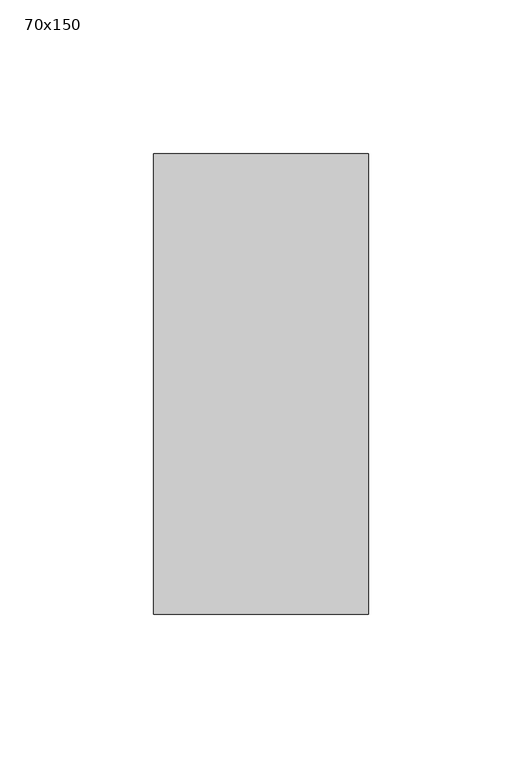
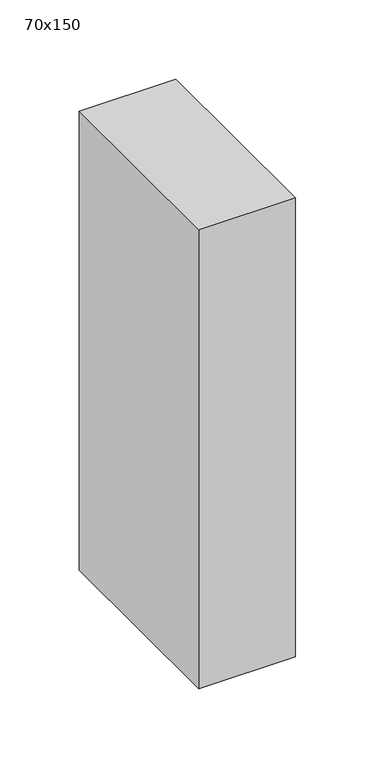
"""IFC4 building model written with IfcOpenShell, lengths in millimetres: member geometry, 長方形のマリオン : 70x150."""

import ifcopenshell
import ifcopenshell.guid

model = None  # the IFC model being written
_history = None  # IfcOwnerHistory: only IFC2X3 demands one
_inside = {}  # id of a spatial element -> (the spatial element, [elements in it])
_under = {}  # id of a project, library or spatial element -> (it, [spatial elements below it])
_declared = {}  # id of a project -> (the project, [libraries it declares])
_typed = {}  # id of a type object -> (the type object, [elements of that type])
_made_of = {}  # id of a material, layer set ... -> (it, [elements and type objects made of it])


def new_model(schema):
    """Start an empty IFC model of exactly this schema.

    Asked for "IFC4X3", IfcOpenShell would pick the latest addendum, in which some entities
    have other attributes; the version numbers below select the first issue.
    IFC2X3 requires an IfcOwnerHistory on every rooted entity: one is made here for all.
    """
    global model, _history
    if schema == "IFC4X3":
        model = ifcopenshell.file(schema_version=(4, 3, 0, 0))
    else:
        model = ifcopenshell.file(schema=schema)
    _inside.clear()
    _under.clear()
    _declared.clear()
    _typed.clear()
    _made_of.clear()
    _history = None
    if model.schema == "IFC2X3":
        org = make("IfcOrganization", Name="unknown")
        user = make(
            "IfcPersonAndOrganization",
            ThePerson=make("IfcPerson", FamilyName="unknown"),
            TheOrganization=org,
        )
        app = make(
            "IfcApplication",
            ApplicationDeveloper=org,
            Version="unknown",
            ApplicationFullName="unknown",
            ApplicationIdentifier="unknown",
        )
        _history = make(
            "IfcOwnerHistory",
            OwningUser=user,
            OwningApplication=app,
            ChangeAction="ADDED",
            CreationDate=0,
        )
    return model


def make(cls, **values):
    """One entity of the class cls with the attributes given. An attribute that is None is left unset."""
    return model.create_entity(
        cls, **{name: value for name, value in values.items() if value is not None}
    )


def rooted(cls, **values):
    """An entity with a GlobalId (a new one), such as an element, a storey or a relation."""
    return make(cls, GlobalId=ifcopenshell.guid.new(), OwnerHistory=_history, **values)


def si_unit(unit_type, name, prefix=None):
    """IfcSIUnit, for example si_unit("LENGTHUNIT", "METRE", prefix="MILLI")."""
    return make("IfcSIUnit", UnitType=unit_type, Prefix=prefix, Name=name)


def assignment(units):
    """IfcUnitAssignment: the units of a project."""
    return None if units is None else make("IfcUnitAssignment", Units=units)


def point(xyz):
    """IfcCartesianPoint."""
    return None if xyz is None else make("IfcCartesianPoint", Coordinates=xyz)


def direction(xyz):
    """IfcDirection."""
    return None if xyz is None else make("IfcDirection", DirectionRatios=xyz)


def frame(location, z_axis=None, x_axis=None):
    """IfcAxis2Placement3D, a coordinate frame: its origin and axes. An axis left out is left unset."""
    return make(
        "IfcAxis2Placement3D",
        Location=point(location),
        Axis=direction(z_axis),
        RefDirection=direction(x_axis),
    )


def origin():
    """The frame at (0, 0, 0) with its axes left unset."""
    return frame((0.0, 0.0, 0.0))


def place(relative_to, where):
    """IfcLocalPlacement: puts the frame where relative to a parent placement (None: the world)."""
    return make(
        "IfcLocalPlacement", PlacementRelTo=relative_to, RelativePlacement=where
    )


def context(
    kind, dimensions, precision=None, world=None, true_north=None, identifier=None
):
    """IfcGeometricRepresentationContext, for example the 3D "Model" context."""
    return make(
        "IfcGeometricRepresentationContext",
        ContextIdentifier=identifier,
        ContextType=kind,
        CoordinateSpaceDimension=dimensions,
        Precision=precision,
        WorldCoordinateSystem=world,
        TrueNorth=true_north,
    )


def project(units=None, contexts=None):
    """IfcProject with its units and contexts."""
    return rooted(
        "IfcProject",
        Name="project",
        RepresentationContexts=contexts,
        UnitsInContext=assignment(units),
    )


def spatial(cls, under=None, at=None, **own):
    """A site, building, storey or space (cls), placed at a placement, below another one or the project."""
    s = rooted(cls, ObjectPlacement=at, **own)
    if under is not None:
        _under.setdefault(under.id(), (under, []))[1].append(s)
    return s


def polyline(points):
    """IfcPolyline through the points."""
    return make("IfcPolyline", Points=[point(p) for p in points])


def outline(outer, holes=None, kind="AREA"):
    """IfcArbitraryClosedProfileDef: a profile drawn as a closed curve; with holes, ...WithVoids."""
    if holes is None:
        return make("IfcArbitraryClosedProfileDef", ProfileType=kind, OuterCurve=outer)
    return make(
        "IfcArbitraryProfileDefWithVoids",
        ProfileType=kind,
        OuterCurve=outer,
        InnerCurves=holes,
    )


def extrude(swept, where, along, depth):
    """IfcExtrudedAreaSolid: the profile swept, set in the frame where, extruded along a direction by depth."""
    return make(
        "IfcExtrudedAreaSolid",
        SweptArea=swept,
        Position=where,
        ExtrudedDirection=direction(along),
        Depth=depth,
    )


def shape(context_of_items, identifier, shape_type, items):
    """IfcShapeRepresentation: the items that make up one representation, for example the "Body"."""
    return make(
        "IfcShapeRepresentation",
        ContextOfItems=context_of_items,
        RepresentationIdentifier=identifier,
        RepresentationType=shape_type,
        Items=items,
    )


def source(mapping_origin, context_of_items, identifier, shape_type, items):
    """IfcRepresentationMap: a shape defined once, which mapped items show again and again."""
    return make(
        "IfcRepresentationMap",
        MappingOrigin=mapping_origin,
        MappedRepresentation=shape(context_of_items, identifier, shape_type, items),
    )


def transform(
    local_origin,
    x_axis=None,
    y_axis=None,
    z_axis=None,
    scale=None,
    scale2=None,
    scale3=None,
    uniform=True,
):
    """IfcCartesianTransformationOperator3D, or its non-uniform kind. x_axis, y_axis, z_axis: its Axis1, 2, 3."""
    if uniform:
        return make(
            "IfcCartesianTransformationOperator3D",
            Axis1=direction(x_axis),
            Axis2=direction(y_axis),
            LocalOrigin=point(local_origin),
            Scale=scale,
            Axis3=direction(z_axis),
        )
    return make(
        "IfcCartesianTransformationOperator3DnonUniform",
        Axis1=direction(x_axis),
        Axis2=direction(y_axis),
        LocalOrigin=point(local_origin),
        Scale=scale,
        Axis3=direction(z_axis),
        Scale2=scale2,
        Scale3=scale3,
    )


def mapped(mapping_source, mapping_target):
    """IfcMappedItem: shows the shape of a source again, moved by a transform."""
    return make(
        "IfcMappedItem", MappingSource=mapping_source, MappingTarget=mapping_target
    )


def made_of(thing, what):
    """Note that an element or type object is made of a material, layer set ...; save() writes the relation."""
    if what is not None:
        _made_of.setdefault(what.id(), (what, []))[1].append(thing)
    return thing


def element(
    cls,
    number,
    at=None,
    inside=None,
    cuts=None,
    type_object=None,
    material=None,
    context=None,
    identifier="Body",
    shape_type=None,
    held_by="IfcProductDefinitionShape",
    body=None,
    shapes=None,
    **own,
):
    """One element of the class cls, such as IfcWall. Its Tag is "e" and its number.

    at: its placement. inside: the storey or other place that contains it. cuts: it is an
    opening in that element (IfcRelVoidsElement). A single representation is given by context,
    identifier, shape_type and body (its items); several are given by shapes. held_by: the class
    of the entity that holds the representations. save() writes the other relations.
    """
    e = rooted(cls, Tag="e%d" % number, ObjectPlacement=at, **own)
    if body is not None:
        shapes = [shape(context, identifier, shape_type, body)]
    if shapes is not None:
        e.Representation = make(held_by, Representations=shapes)
    if inside is not None:
        _inside.setdefault(inside.id(), (inside, []))[1].append(e)
    if cuts is not None:
        rooted(
            "IfcRelVoidsElement", RelatingBuildingElement=cuts, RelatedOpeningElement=e
        )
    if type_object is not None:
        _typed.setdefault(type_object.id(), (type_object, []))[1].append(e)
    return made_of(e, material)


def aggregate(whole, parts):
    """IfcRelAggregates: a whole, such as a stair, and the parts it consists of."""
    return rooted("IfcRelAggregates", RelatingObject=whole, RelatedObjects=parts)


def save(model, path):
    """Write the relations noted so far, then the file.

    IfcRelAggregates (storeys below a building ...), IfcRelContainedInSpatialStructure (elements
    in a storey), IfcRelDefinesByType, IfcRelAssociatesMaterial and IfcRelDeclares: one each for
    every whole, place, type object, material and project.
    """
    for whole, parts in _under.values():
        aggregate(whole, parts)
    for where, things in _inside.values():
        rooted(
            "IfcRelContainedInSpatialStructure",
            RelatedElements=things,
            RelatingStructure=where,
        )
    for kind, things in _typed.values():
        rooted("IfcRelDefinesByType", RelatedObjects=things, RelatingType=kind)
    for what, things in _made_of.values():
        rooted("IfcRelAssociatesMaterial", RelatedObjects=things, RelatingMaterial=what)
    for by, libraries in _declared.values():
        rooted("IfcRelDeclares", RelatingContext=by, RelatedDefinitions=libraries)
    model.write(path)


def member_70x150_e418e2be(model_context):
    return source(origin(), model_context, "Body", "SweptSolid", [
        extrude(outline(polyline([(0.0, 75.0), (0.0, -75.0), (-70.0, -75.0), (-70.0, 75.0), (0.0, 75.0)])), frame((0.0, 0.0, -352.1424229), z_axis=(0.0, 0.0, 1.0), x_axis=(1.0, 0.0, 0.0)), (0.0, 0.0, 1.0), 352.1424229),
    ])


if __name__ == "__main__":
    model = new_model("IFC4")
    model_context = context("Model", 3, world=origin())
    ifc_project = project(units=[si_unit("LENGTHUNIT", "METRE", prefix="MILLI")], contexts=[model_context])
    site = spatial("IfcSite", under=ifc_project)
    building = spatial("IfcBuilding", under=site)
    placement = place(None, origin())
    member_70x150_shape = member_70x150_e418e2be(model_context)
    element("IfcMember", 1, ObjectType="長方形のマリオン : 70x150", at=placement, inside=building, context=model_context, shape_type="MappedRepresentation", body=[
        mapped(member_70x150_shape, transform((0.0, 0.0, 0.0), x_axis=(1.0, 0.0, 0.0), y_axis=(0.0, 1.0, 0.0), z_axis=(0.0, 0.0, 1.0))),
    ])
    save(model, "model.ifc")
